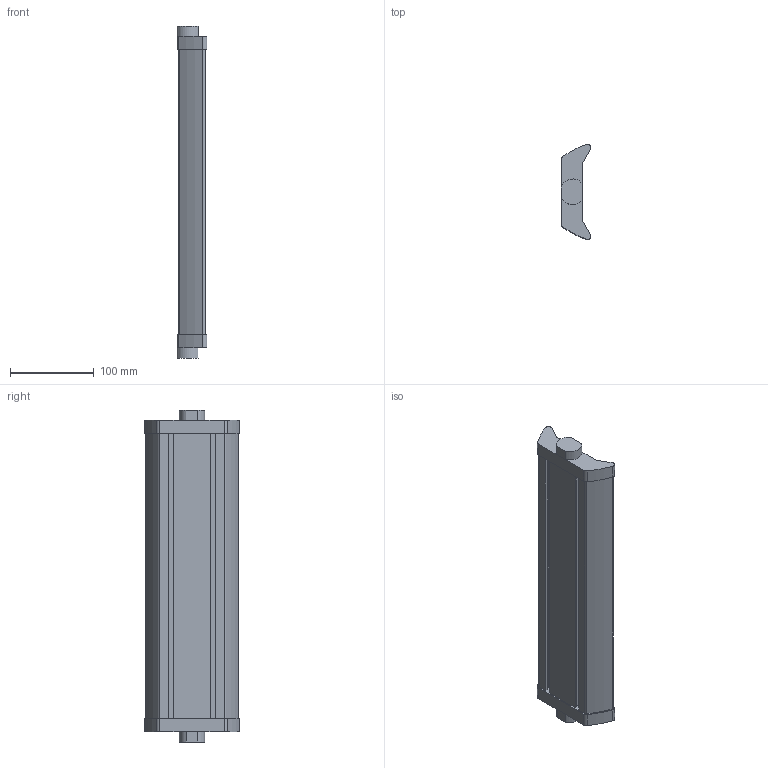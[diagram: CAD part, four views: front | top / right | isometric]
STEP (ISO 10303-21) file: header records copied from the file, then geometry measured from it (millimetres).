
FILE_DESCRIPTION (( 'STEP AP214' ), '1' );
FILE_NAME ('440L-AM0750300.STEP', '2008-02-14T22:29:43', ( 'me' ), ( '' ), 'SwSTEP 2.0', 'SolidWorks 2007', '' );
FILE_SCHEMA (( 'AUTOMOTIVE_DESIGN' ));
Length unit declared in the file: millimetre
Products named in the file (1): 440L-AM0750300
Bounding box: 35.51 x 113.76 x 396 mm (x, y, z)
Volume: 817132 mm3; surface area: 123443.1 mm2
Topology: 1 solids, 1 shells, 74 faces, 202 edges, 132 vertices
Faces by surface type: plane 44, cylinder 30
Entity records: 2879 total; most frequent: DIRECTION 420, CARTESIAN_POINT 409, ORIENTED_EDGE 404, EDGE_CURVE 202, AXIS2_PLACEMENT_3D 143, LINE 134, VECTOR 134, VERTEX_POINT 132
